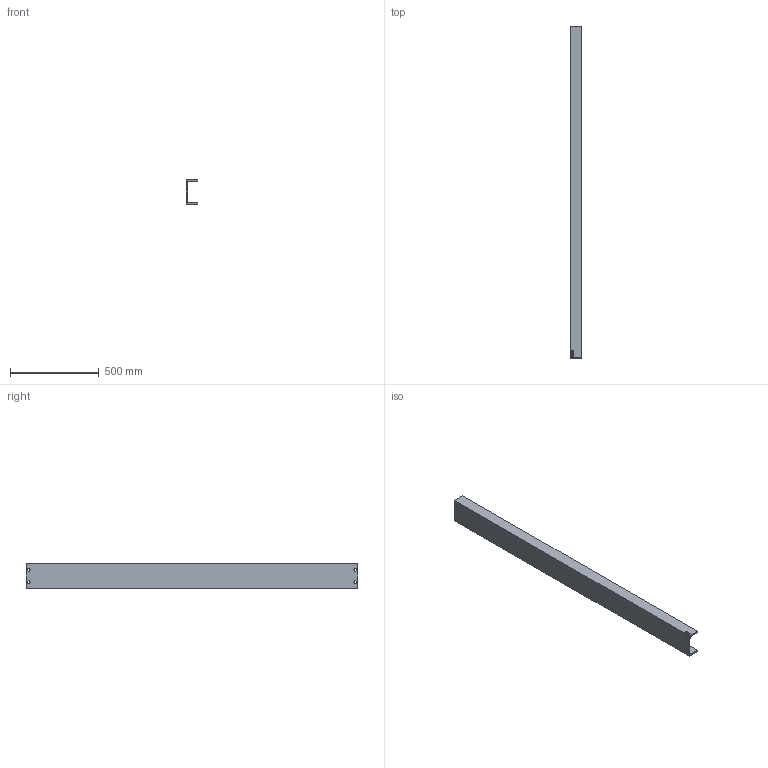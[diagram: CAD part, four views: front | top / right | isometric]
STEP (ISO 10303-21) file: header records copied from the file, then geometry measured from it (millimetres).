
FILE_DESCRIPTION (( 'STEP AP214' ), '1' );
FILE_NAME ('CCJ029-REP.033 - TRAVERSE COUPEE.STEP', '2025-02-13T08:41:39', ( '' ), ( '' ), 'SwSTEP 2.0', 'SolidWorks 2021', '' );
FILE_SCHEMA (( 'AUTOMOTIVE_DESIGN' ));
Length unit declared in the file: millimetre
Products named in the file (1): CCJ029-REP.033 - TRAVERSE COUPEE
Bounding box: 65 x 1870 x 140 mm (x, y, z)
Volume: 3440563.3 mm3; surface area: 975158.8 mm2
Topology: 1 solids, 1 shells, 67 faces, 183 edges, 122 vertices
Faces by surface type: bspline 37, plane 20, cylinder 10
Entity records: 4237 total; most frequent: CARTESIAN_POINT 2722, ORIENTED_EDGE 366, DIRECTION 191, EDGE_CURVE 183, VERTEX_POINT 122, LINE 89, VECTOR 89, EDGE_LOOP 79
